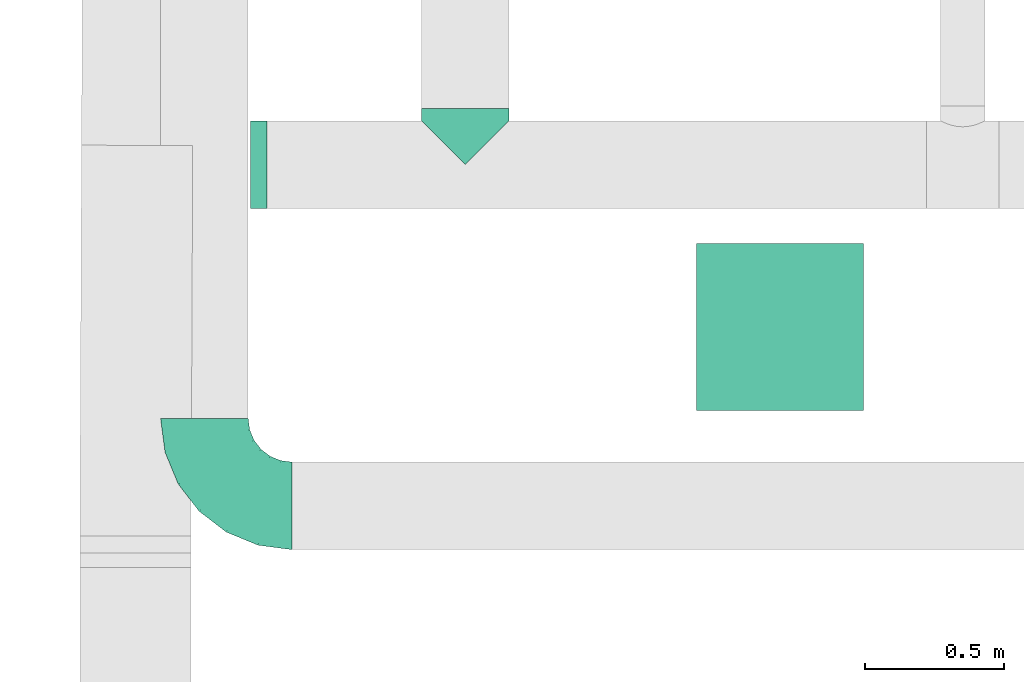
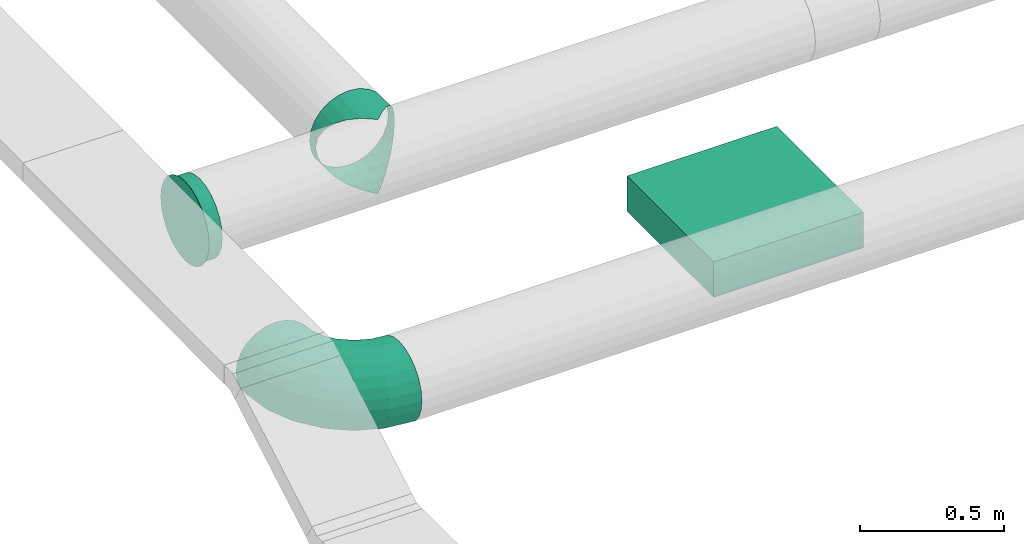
# One storey, part 16 of 119: 2 flow fittings, 1 distribution element, 1 flow segment.
"""IFC2X3 building model written with IfcOpenShell, lengths in metres."""

from ifc_helpers import new_model, si_unit, direction, frame, frame_2d, origin, place, context, subcontext, project, spatial, rectangle, extrude, open_shell, surface_model, source, transform, mapped, element, save


model = new_model("IFC2X3")

# Units and contexts
model_context = context("Model", 3, precision=1e-05, world=origin(), true_north=direction((-0.4480736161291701, 0.8939966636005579)))
body_context = subcontext(model_context, "Body", "Model", "MODEL_VIEW")
ifc_project = project(units=[si_unit("LENGTHUNIT", "METRE"), si_unit("AREAUNIT", "SQUARE_METRE"), si_unit("VOLUMEUNIT", "CUBIC_METRE"), si_unit("PLANEANGLEUNIT", "RADIAN"), si_unit("THERMODYNAMICTEMPERATUREUNIT", "KELVIN"), si_unit("MASSUNIT", "GRAM", prefix="KILO"), si_unit("TIMEUNIT", "SECOND")], contexts=[model_context])

# Site, building, storey
site_placement = place(None, origin())
site = spatial("IfcSite", under=ifc_project, at=site_placement, Name="Site 1", CompositionType="ELEMENT")
building_placement = place(site_placement, origin())
building = spatial("IfcBuilding", under=site, at=building_placement, Name="Undefined", CompositionType="ELEMENT")
storey_placement = place(building_placement, frame((0.0, 0.0, 5.4)))
storey = spatial("IfcBuildingStorey", under=building, at=storey_placement, Name="R+1", CompositionType="ELEMENT", Elevation=5.4)

# Flow fitting
shared_shape_1 = source(origin(), body_context, "Body", "SurfaceModel", [
    surface_model("IfcFaceBasedSurfaceModel", [(0.0, 0.04111575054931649, 0.0), (0.0, 0.0, 0.0), (0.05930000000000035, 0.0, 0.0), (0.05930000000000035, 0.04111575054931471, 0.0), (0.0, -0.03971476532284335, -0.010641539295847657), (0.05930000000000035, -0.039714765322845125, -0.010641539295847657), (0.0, -0.0753220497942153, -0.0311994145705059), (0.05930000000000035, -0.07532204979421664, -0.0311994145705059), (0.0, -0.10439527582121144, -0.060272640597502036), (0.05930000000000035, -0.10439527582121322, -0.06027264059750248), (0.0, -0.12495315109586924, -0.09587992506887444), (0.05930000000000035, -0.12495315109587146, -0.095879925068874), (0.0, -0.13559469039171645, -0.13559469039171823), (0.05930000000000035, -0.13559469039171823, -0.13559469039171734), (0.0, -0.135594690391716, -0.17671044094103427), (0.05930000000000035, -0.13559469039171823, -0.17671044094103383), (0.0, -0.1249531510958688, -0.21642520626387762), (0.05930000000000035, -0.12495315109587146, -0.21642520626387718), (0.0, -0.10439527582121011, -0.2520324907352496), (0.05930000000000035, -0.10439527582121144, -0.2520324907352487), (0.0, -0.07532204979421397, -0.2811057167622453), (0.05930000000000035, -0.07532204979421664, -0.2811057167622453), (0.0, -0.039714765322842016, -0.3016635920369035), (0.05930000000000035, -0.03971476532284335, -0.3016635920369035), (0.0, 1.776356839e-15, -0.3123051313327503), (0.05930000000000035, -1.776356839e-15, -0.3123051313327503), (0.0, 0.041115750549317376, -0.31230513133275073), (0.05930000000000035, 0.04111575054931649, -0.3123051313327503), (0.0, 0.08083051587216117, -0.30166359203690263), (0.05930000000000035, 0.08083051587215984, -0.3016635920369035), (0.0, 0.11643780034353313, -0.28110571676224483), (0.05930000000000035, 0.11643780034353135, -0.2811057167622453), (0.0, 0.14551102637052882, -0.25203249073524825), (0.05930000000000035, 0.14551102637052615, -0.2520324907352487), (0.0, 0.16606890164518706, -0.2164252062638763), (0.05930000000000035, 0.1660689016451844, -0.2164252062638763), (0.0, 0.17671044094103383, -0.1767104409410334), (0.05930000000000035, 0.17671044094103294, -0.17671044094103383), (0.0, 0.17671044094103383, -0.1355946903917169), (0.05930000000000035, 0.17671044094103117, -0.13559469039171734), (0.0, 0.16606890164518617, -0.09587992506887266), (0.05930000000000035, 0.1660689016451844, -0.095879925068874), (0.0, 0.14551102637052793, -0.06027264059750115), (0.05930000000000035, 0.14551102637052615, -0.06027264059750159), (0.0, 0.1164378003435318, -0.031199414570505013), (0.05930000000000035, 0.11643780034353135, -0.0311994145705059), (0.0, 0.08083051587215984, -0.010641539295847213), (0.05930000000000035, 0.08083051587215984, -0.010641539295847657), (0.05930000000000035, 0.04248627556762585, 0.010410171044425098), (0.05930000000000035, -0.0013705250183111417, 0.01041017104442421), (0.060000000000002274, -0.0013705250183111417, 0.01041017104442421), (0.060000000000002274, 0.04248627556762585, 0.010410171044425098), (0.05930000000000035, -0.0437329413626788, -0.0009408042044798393), (0.060000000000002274, -0.0437329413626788, -0.0009408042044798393), (0.05930000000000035, -0.08171404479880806, -0.022869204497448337), (0.060000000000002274, -0.08171404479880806, -0.022869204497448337), (0.05930000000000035, -0.1127254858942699, -0.05388064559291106), (0.060000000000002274, -0.1127254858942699, -0.05388064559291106), (0.05930000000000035, -0.13465388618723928, -0.0918617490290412), (0.060000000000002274, -0.13465388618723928, -0.0918617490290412), (0.05930000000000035, -0.14600486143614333, -0.1342241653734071), (0.060000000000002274, -0.14600486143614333, -0.1342241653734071), (0.05930000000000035, -0.14600486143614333, -0.17808096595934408), (0.060000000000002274, -0.14600486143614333, -0.17808096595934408), (0.05930000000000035, -0.1346538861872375, -0.22044338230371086), (0.060000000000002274, -0.1346538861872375, -0.22044338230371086), (0.05930000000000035, -0.1127254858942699, -0.258424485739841), (0.060000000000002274, -0.1127254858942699, -0.258424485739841), (0.05930000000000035, -0.08171404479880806, -0.2894359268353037), (0.060000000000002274, -0.08171404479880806, -0.2894359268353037), (0.05930000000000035, -0.043732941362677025, -0.31136432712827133), (0.060000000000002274, -0.043732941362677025, -0.31136432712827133), (0.05930000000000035, -0.0013705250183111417, -0.3227153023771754), (0.060000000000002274, -0.0013705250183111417, -0.3227153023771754), (0.05930000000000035, 0.04248627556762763, -0.3227153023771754), (0.060000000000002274, 0.04248627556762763, -0.3227153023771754), (0.05930000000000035, 0.08484869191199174, -0.31136432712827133), (0.060000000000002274, 0.08484869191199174, -0.31136432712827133), (0.05930000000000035, 0.12282979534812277, -0.28943592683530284), (0.060000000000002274, 0.12282979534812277, -0.28943592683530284), (0.05930000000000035, 0.1538412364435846, -0.2584244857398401), (0.060000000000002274, 0.1538412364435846, -0.2584244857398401), (0.05930000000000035, 0.175769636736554, -0.22044338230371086), (0.060000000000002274, 0.175769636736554, -0.22044338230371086), (0.05930000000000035, 0.18712061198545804, -0.17808096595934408), (0.060000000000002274, 0.18712061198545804, -0.17808096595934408), (0.05930000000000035, 0.18712061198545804, -0.1342241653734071), (0.060000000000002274, 0.18712061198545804, -0.1342241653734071), (0.05930000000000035, 0.17576963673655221, -0.09186174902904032), (0.060000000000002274, 0.17576963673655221, -0.09186174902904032), (0.05930000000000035, 0.1538412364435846, -0.05388064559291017), (0.060000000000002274, 0.1538412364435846, -0.05388064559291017), (0.05930000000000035, 0.122829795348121, -0.02286920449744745), (0.060000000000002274, 0.122829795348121, -0.02286920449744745), (0.05930000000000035, 0.08484869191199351, -0.0009408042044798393), (0.060000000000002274, 0.08484869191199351, -0.0009408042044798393), (0.05930000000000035, 0.020557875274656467, -0.1561525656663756), (0.060000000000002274, 0.020557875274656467, -0.1561525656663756)], [open_shell([[[0, 1, 2, 3]], [[1, 4, 5, 2]], [[4, 6, 7, 5]], [[6, 8, 9, 7]], [[8, 10, 11, 9]], [[10, 12, 13, 11]], [[12, 14, 15, 13]], [[14, 16, 17, 15]], [[16, 18, 19, 17]], [[18, 20, 21, 19]], [[20, 22, 23, 21]], [[22, 24, 25, 23]], [[24, 26, 27, 25]], [[26, 28, 29, 27]], [[28, 30, 31, 29]], [[30, 32, 33, 31]], [[32, 34, 35, 33]], [[34, 36, 37, 35]], [[36, 38, 39, 37]], [[38, 40, 41, 39]], [[40, 42, 43, 41]], [[42, 44, 45, 43]], [[44, 46, 47, 45]], [[46, 0, 3, 47]], [[48, 49, 50, 51]], [[49, 52, 53, 50]], [[52, 54, 55, 53]], [[54, 56, 57, 55]], [[56, 58, 59, 57]], [[58, 60, 61, 59]], [[60, 62, 63, 61]], [[62, 64, 65, 63]], [[64, 66, 67, 65]], [[66, 68, 69, 67]], [[68, 70, 71, 69]], [[70, 72, 73, 71]], [[72, 74, 75, 73]], [[74, 76, 77, 75]], [[76, 78, 79, 77]], [[78, 80, 81, 79]], [[80, 82, 83, 81]], [[82, 84, 85, 83]], [[84, 86, 87, 85]], [[86, 88, 89, 87]], [[88, 90, 91, 89]], [[90, 92, 93, 91]], [[92, 94, 95, 93]], [[94, 48, 51, 95]], [[96, 49, 48]], [[96, 52, 49]], [[96, 54, 52]], [[96, 56, 54]], [[96, 58, 56]], [[96, 60, 58]], [[96, 62, 60]], [[96, 64, 62]], [[96, 66, 64]], [[96, 68, 66]], [[96, 70, 68]], [[96, 72, 70]], [[96, 74, 72]], [[96, 76, 74]], [[96, 78, 76]], [[96, 80, 78]], [[96, 82, 80]], [[96, 84, 82]], [[96, 86, 84]], [[96, 88, 86]], [[96, 90, 88]], [[96, 92, 90]], [[96, 94, 92]], [[96, 48, 94]], [[97, 95, 51]], [[97, 93, 95]], [[97, 91, 93]], [[97, 89, 91]], [[97, 87, 89]], [[97, 85, 87]], [[97, 83, 85]], [[97, 81, 83]], [[97, 79, 81]], [[97, 77, 79]], [[97, 75, 77]], [[97, 73, 75]], [[97, 71, 73]], [[97, 69, 71]], [[97, 67, 69]], [[97, 65, 67]], [[97, 63, 65]], [[97, 61, 63]], [[97, 59, 61]], [[97, 57, 59]], [[97, 55, 57]], [[97, 53, 55]], [[97, 50, 53]], [[97, 51, 50]]])]),
])
flow_fitting_1_placement = place(storey_placement, origin())
element("IfcFlowFitting", 1, at=flow_fitting_1_placement, inside=storey, Name="Enddeckel", ObjectType="Enddeckel", context=body_context, shape_type="MappedRepresentation", body=[
    mapped(shared_shape_1, transform((27.79082580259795, 20.54514033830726, 2.902133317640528), x_axis=(-1.0, 0.0, 0.0), y_axis=(7.266545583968e-12, -0.9914448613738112, 0.13052619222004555), z_axis=(0.0, 0.13052619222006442, 0.9914448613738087))),
])

# Flow segment
shared_shape_2 = source(origin(), body_context, "Body", "SurfaceModel", [
    surface_model("IfcFaceBasedSurfaceModel", [(0.005366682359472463, 0.0411157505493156, -3.552713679e-15), (0.0, 0.0, 0.0), (0.05036668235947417, 0.0, 0.0), (0.05036668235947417, 0.0411157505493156, -3.552713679e-15), (-0.015734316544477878, -0.039714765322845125, -0.010641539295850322), (0.05036668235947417, -0.039714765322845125, -0.010641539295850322), (-0.04076399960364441, -0.07532204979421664, -0.03119941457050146), (0.05036668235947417, -0.07532204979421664, -0.03119941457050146), (-0.07338331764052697, -0.10439527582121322, -0.060272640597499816), (0.05036668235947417, -0.10439527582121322, -0.060272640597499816), (-0.11136931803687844, -0.12495315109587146, -0.09587992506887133), (0.05036668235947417, -0.12495315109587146, -0.09587992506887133), (-0.1521333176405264, -0.13559469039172, -0.13559469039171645), (0.05036668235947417, -0.13559469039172, -0.13559469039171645), (-0.11136931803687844, -0.1355946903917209, -0.1767104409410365), (0.05036668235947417, -0.1355946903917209, -0.1767104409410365), (-0.07338331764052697, -0.12495315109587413, -0.21642520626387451), (0.05036668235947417, -0.12495315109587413, -0.21642520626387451), (-0.04076399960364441, -0.10439527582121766, -0.2520324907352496), (0.05036668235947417, -0.10439527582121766, -0.2520324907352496), (-0.015734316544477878, -0.07532204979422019, -0.28110571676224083), (0.05036668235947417, -0.07532204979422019, -0.28110571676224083), (0.0, -0.039714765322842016, -0.3016635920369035), (0.05036668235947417, -0.03971476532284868, -0.30166359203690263), (0.005366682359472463, -6.217248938e-15, -0.31230513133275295), (0.05036668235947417, -6.217248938e-15, -0.31230513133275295), (0.0, 0.041115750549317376, -0.31230513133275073), (0.05036668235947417, 0.04111575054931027, -0.31230513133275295), (-0.015734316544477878, 0.08083051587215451, -0.30166359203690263), (0.05036668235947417, 0.08083051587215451, -0.30166359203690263), (-0.04076399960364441, 0.11643780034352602, -0.2811057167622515), (0.05036668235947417, 0.11643780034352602, -0.2811057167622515), (-0.07338331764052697, 0.1455110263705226, -0.25203249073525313), (0.05036668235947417, 0.1455110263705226, -0.25203249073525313), (-0.11136931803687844, 0.16606890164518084, -0.21642520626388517), (0.05036668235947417, 0.16606890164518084, -0.21642520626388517), (-0.1521333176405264, 0.1767104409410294, -0.17671044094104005), (0.05036668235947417, 0.1767104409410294, -0.17671044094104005), (-0.11136931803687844, 0.17671044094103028, -0.13559469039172), (0.05036668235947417, 0.17671044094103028, -0.13559469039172), (-0.07338331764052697, 0.1660689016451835, -0.09587992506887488), (0.05036668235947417, 0.1660689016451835, -0.09587992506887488), (-0.04076399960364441, 0.14551102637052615, -0.06027264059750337), (0.05036668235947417, 0.14551102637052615, -0.06027264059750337), (-0.015734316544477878, 0.11643780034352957, -0.03119941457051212), (0.05036668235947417, 0.11643780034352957, -0.03119941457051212), (0.0, 0.08083051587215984, -0.010641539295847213), (0.05036668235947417, 0.08083051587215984, -0.010641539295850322)], [open_shell([[[0, 1, 2, 3]], [[1, 4, 5, 2]], [[4, 6, 7, 5]], [[6, 8, 9, 7]], [[8, 10, 11, 9]], [[10, 12, 13, 11]], [[12, 14, 15, 13]], [[14, 16, 17, 15]], [[16, 18, 19, 17]], [[18, 20, 21, 19]], [[20, 22, 23, 21]], [[22, 24, 25, 23]], [[24, 26, 27, 25]], [[26, 28, 29, 27]], [[28, 30, 31, 29]], [[30, 32, 33, 31]], [[32, 34, 35, 33]], [[34, 36, 37, 35]], [[36, 38, 39, 37]], [[38, 40, 41, 39]], [[40, 42, 43, 41]], [[42, 44, 45, 43]], [[44, 46, 47, 45]], [[46, 0, 3, 47]]])]),
])
flow_segment_placement = place(storey_placement, origin())
element("IfcFlowSegment", 2, at=flow_segment_placement, inside=storey, Name="Piquage équerre circulaire", ObjectType="Piquage équerre circulaire", context=body_context, shape_type="MappedRepresentation", body=[
    mapped(shared_shape_2, transform((28.35170023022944, 20.656509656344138, 2.790763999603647), x_axis=(0.0, 1.0, 0.0), y_axis=(-0.13052619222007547, 0.0, -0.9914448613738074), z_axis=(-0.9914448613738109, 0.0, 0.1305261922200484))),
])

# Flow fitting
shared_shape_3 = source(origin(), body_context, "Body", "SurfaceModel", [
    surface_model("IfcFaceBasedSurfaceModel", [(0.12334725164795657, 0.0, -1.110223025e-15), (0.12264675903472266, 0.04110978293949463, -7.77156117e-16), (0.0007004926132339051, 0.041109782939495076, -7.77156117e-16), (0.0, 0.0, 0.0), (-0.1170905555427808, 0.04519480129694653, -0.031296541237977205), (-0.11914429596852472, 0.004131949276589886, -0.0316560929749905), (-0.22269912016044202, 0.05308645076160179, -0.0917568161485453), (-0.2259661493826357, 0.01211426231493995, -0.09281096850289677), (-0.3089281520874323, 0.06424692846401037, -0.1772605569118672), (-0.313185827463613, 0.023402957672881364, -0.17929702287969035), (-0.3699012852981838, 0.07791566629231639, -0.2819808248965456), (-0.3748594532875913, 0.03722872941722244, -0.285220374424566), (-0.4014633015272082, 0.09316116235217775, -0.39878110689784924), (-0.4067840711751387, 0.05264937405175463, -0.40336252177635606), (0.12059301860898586, 0.08079531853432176, -0.01055203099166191), (0.0027542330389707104, 0.08079531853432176, -0.01055203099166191), (-0.11106929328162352, 0.08474274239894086, -0.04079441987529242), (-0.21312067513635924, 0.09236857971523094, -0.09921822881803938), (-0.2964452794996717, 0.1031531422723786, -0.18184197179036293), (-0.3553646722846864, 0.11636147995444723, -0.2830349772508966), (-0.38586359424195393, 0.131093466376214, -0.39590110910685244), (0.11732598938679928, 0.11635210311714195, -0.03093698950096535), (0.006021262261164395, 0.1163521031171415, -0.030936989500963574), (-0.10149084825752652, 0.12008064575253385, -0.05950246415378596), (-0.19788356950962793, 0.12728363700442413, -0.11468672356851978), (-0.2765878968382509, 0.13747020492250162, -0.19272905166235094), (-0.3322402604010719, 0.14994615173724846, -0.28831099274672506), (-0.36104804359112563, 0.16386126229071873, -0.3949187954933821), (0.11306831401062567, 0.14535700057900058, -0.05976567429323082), (0.010278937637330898, 0.14535700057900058, -0.05976567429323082), (-0.08900797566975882, 0.14880029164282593, -0.08614575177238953), (-0.17802618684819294, 0.15545221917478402, -0.13710814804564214), (-0.25070925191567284, 0.16485946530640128, -0.2091798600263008), (-0.3021039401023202, 0.1763809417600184, -0.29744931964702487), (-0.32870778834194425, 0.189231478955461, -0.395901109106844), (0.10811014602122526, 0.16583337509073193, -0.09507345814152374), (0.015237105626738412, 0.16583337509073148, -0.09507345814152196), (-0.07447136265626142, 0.16894448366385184, -0.1189085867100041), (-0.15490177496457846, 0.17495468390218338, -0.16495451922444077), (-0.22057293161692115, 0.1834543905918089, -0.230073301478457), (-0.26700945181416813, 0.1938643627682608, -0.3098271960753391), (-0.2910467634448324, 0.20547517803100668, -0.3987811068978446), (0.10278937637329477, 0.17638579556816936, -0.13445417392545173), (0.020557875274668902, 0.17638579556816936, -0.1344541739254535), (-0.05887165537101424, 0.17914042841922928, -0.15555823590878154), (-0.13008622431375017, 0.18446197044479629, -0.1963281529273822), (-0.18823267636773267, 0.19198776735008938, -0.2539855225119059), (-0.22934842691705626, 0.20120494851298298, -0.324601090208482), (-0.2506315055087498, 0.21148537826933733, -0.40336252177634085), (0.09746860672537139, 0.17629513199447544, -0.17522409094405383), (0.025878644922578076, 0.17629513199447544, -0.17522409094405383), (-0.043271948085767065, 0.17869328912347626, -0.19359708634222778), (-0.10527067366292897, 0.18332617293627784, -0.22909098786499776), (-0.1558924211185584, 0.1898780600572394, -0.2792869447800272), (-0.1916874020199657, 0.19790245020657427, -0.3407641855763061), (-0.21021624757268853, 0.20685249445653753, -0.40933313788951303), (0.09251043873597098, 0.1655675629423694, -0.2146048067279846), (0.030836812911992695, 0.1655675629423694, -0.21460480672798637), (-0.028735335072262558, 0.1676335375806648, -0.2304328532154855), (-0.0821462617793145, 0.17162469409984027, -0.261010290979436), (-0.1257561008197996, 0.1772690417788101, -0.3042533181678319), (-0.1565929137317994, 0.18418192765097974, -0.35721499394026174), (-0.17255522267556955, 0.1918922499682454, -0.4162860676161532), (0.08825276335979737, 0.14493415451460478, -0.24991259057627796), (0.0350944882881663, 0.14493415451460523, -0.2499125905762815), (-0.01625246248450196, 0.1467148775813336, -0.2635552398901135), (-0.06228887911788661, 0.15015497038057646, -0.28991081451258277), (-0.09987745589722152, 0.15501999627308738, -0.32718322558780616), (-0.1264565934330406, 0.16097841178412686, -0.3728324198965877), (-0.14021496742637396, 0.16762416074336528, -0.4237474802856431), (0.08498573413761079, 0.11580103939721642, -0.27874127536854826), (0.03836151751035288, 0.11580103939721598, -0.2787412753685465), (-0.0066740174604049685, 0.11736288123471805, -0.2907070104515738), (-0.0470517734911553, 0.12038012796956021, -0.3138230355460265), (-0.08002007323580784, 0.12464715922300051, -0.34651403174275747), (-0.10333218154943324, 0.1298731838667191, -0.3865521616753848), (-0.11539941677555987, 0.13570205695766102, -0.43120889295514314), (0.08293199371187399, 0.08015359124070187, -0.2991262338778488), (0.04041525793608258, 0.08015359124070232, -0.2991262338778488), (-0.0006527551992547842, 0.08157783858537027, -0.31003781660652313), (-0.037473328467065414, 0.08432927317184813, -0.3311173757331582), (-0.06753720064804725, 0.08822038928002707, -0.36092837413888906), (-0.08879556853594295, 0.09298601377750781, -0.3974392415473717), (-0.0997997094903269, 0.09830137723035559, -0.438161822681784), (0.08223150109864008, 0.040421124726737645, -0.30967826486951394), (0.0411157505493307, 0.040421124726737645, -0.30967826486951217), (0.001400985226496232, 0.04179844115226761, -0.32023029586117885), (-0.03420629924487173, 0.044459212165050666, -0.34061525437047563), (-0.06327952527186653, 0.04822211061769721, -0.3694439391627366), (-0.08383740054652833, 0.052830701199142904, -0.4047517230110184), (-0.0944789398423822, 0.057970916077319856, -0.44413243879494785), (0.08293199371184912, -0.0006886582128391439, -0.3096782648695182), (0.040415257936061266, -0.0006886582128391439, -0.3096782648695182), (-0.0006527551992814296, 0.0007355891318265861, -0.32058984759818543), (-0.037473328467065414, 0.0034870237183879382, -0.34166940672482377), (-0.06753720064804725, 0.00737813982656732, -0.37148040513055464), (-0.08879556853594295, 0.012143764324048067, -0.4079912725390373), (-0.0997997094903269, 0.017459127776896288, -0.44871385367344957), (0.08498573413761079, -0.040374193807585, -0.29912623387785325), (0.03836151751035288, -0.040374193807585, -0.2991262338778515), (-0.0066740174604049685, -0.03881235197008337, -0.3110919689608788), (-0.0470517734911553, -0.03579510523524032, -0.33420799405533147), (-0.08002007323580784, -0.031528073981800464, -0.36689899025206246), (-0.10333218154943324, -0.02630204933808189, -0.4069371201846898), (-0.11539941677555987, -0.020473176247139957, -0.45159385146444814), (0.08825276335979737, -0.07593097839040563, -0.2787412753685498), (0.0350944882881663, -0.07593097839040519, -0.27874127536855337), (-0.01625246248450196, -0.0741502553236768, -0.29238392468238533), (-0.06228887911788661, -0.07071016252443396, -0.3187394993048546), (-0.09987745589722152, -0.06584513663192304, -0.356011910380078), (-0.1264565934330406, -0.05988672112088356, -0.40166110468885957), (-0.14021496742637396, -0.05324097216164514, -0.4525761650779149), (0.09251043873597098, -0.10493587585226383, -0.2499125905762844), (0.030836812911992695, -0.10493587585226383, -0.24991259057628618), (-0.028735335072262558, -0.10286990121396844, -0.2657406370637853), (-0.0821462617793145, -0.09887874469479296, -0.2963180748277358), (-0.1257561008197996, -0.09323439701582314, -0.3395611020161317), (-0.1565929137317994, -0.0863215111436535, -0.39252277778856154), (-0.17255522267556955, -0.07861118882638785, -0.451593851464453), (0.09746860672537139, -0.12541225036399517, -0.21460480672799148), (0.025878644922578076, -0.12541225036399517, -0.21460480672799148), (-0.043271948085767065, -0.12301409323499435, -0.23297780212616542), (-0.10527067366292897, -0.11838120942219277, -0.2684717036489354), (-0.1558924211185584, -0.11182932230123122, -0.31866766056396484), (-0.1916874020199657, -0.10380493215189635, -0.38014490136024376), (-0.21021624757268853, -0.09485488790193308, -0.4487138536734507), (0.10278937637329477, -0.13596467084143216, -0.1752240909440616), (0.020557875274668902, -0.13596467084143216, -0.17522409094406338), (-0.05887165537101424, -0.1332100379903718, -0.19632815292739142), (-0.13008622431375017, -0.12788849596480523, -0.23709806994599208), (-0.18823267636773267, -0.12036269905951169, -0.2947554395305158), (-0.22934842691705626, -0.11114551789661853, -0.36537100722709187), (-0.2506315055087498, -0.10086508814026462, -0.44413243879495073), (0.10811014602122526, -0.13587400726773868, -0.13445417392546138), (0.015237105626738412, -0.13587400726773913, -0.1344541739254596), (-0.07447136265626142, -0.13276289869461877, -0.15828930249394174), (-0.15490177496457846, -0.12675269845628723, -0.2043352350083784), (-0.22057293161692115, -0.11825299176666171, -0.26945401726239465), (-0.26700945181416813, -0.10784301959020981, -0.34920791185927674), (-0.2910467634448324, -0.09623220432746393, -0.4381618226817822), (0.11306831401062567, -0.12514643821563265, -0.09507345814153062), (0.010278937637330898, -0.12514643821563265, -0.09507345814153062), (-0.08900797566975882, -0.1217031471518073, -0.12145353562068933), (-0.17802618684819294, -0.11505121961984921, -0.17241593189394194), (-0.25070925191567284, -0.10564397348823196, -0.2444876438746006), (-0.3021039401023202, -0.09412249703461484, -0.33275710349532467), (-0.32870778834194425, -0.08127195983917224, -0.4312088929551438), (0.11732598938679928, -0.10451302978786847, -0.05976567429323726), (0.006021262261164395, -0.10451302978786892, -0.05976567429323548), (-0.10149084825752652, -0.10078448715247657, -0.08833114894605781), (-0.19788356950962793, -0.09358149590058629, -0.14351540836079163), (-0.2765878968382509, -0.0833949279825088, -0.2215577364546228), (-0.3322402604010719, -0.07091898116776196, -0.3171396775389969), (-0.36104804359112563, -0.057003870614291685, -0.42374748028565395), (0.12059301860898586, -0.07537991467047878, -0.030936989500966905), (0.0027542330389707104, -0.07537991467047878, -0.030936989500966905), (-0.11106929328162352, -0.07143249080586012, -0.06117937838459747), (-0.21312067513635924, -0.06380665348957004, -0.11960318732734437), (-0.2964452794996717, -0.05302209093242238, -0.20222693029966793), (-0.3553646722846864, -0.039813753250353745, -0.3034199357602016), (-0.38586359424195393, -0.025081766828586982, -0.41628606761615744), (0.12264675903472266, -0.039732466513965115, -0.010552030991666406), (0.0007004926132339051, -0.039732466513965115, -0.010552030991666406), (-0.1170905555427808, -0.03564744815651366, -0.04184857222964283), (-0.22269912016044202, -0.027755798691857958, -0.10230884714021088), (-0.3089281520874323, -0.016595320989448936, -0.18781258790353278), (-0.3699012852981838, -0.002926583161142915, -0.29253285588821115), (-0.4014633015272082, 0.012318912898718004, -0.4093331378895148)], [open_shell([[[0, 1, 2, 3]], [[3, 2, 4, 5]], [[5, 4, 6, 7]], [[7, 6, 8, 9]], [[9, 8, 10, 11]], [[11, 10, 12, 13]], [[1, 14, 15, 2]], [[2, 15, 16, 4]], [[4, 16, 17, 6]], [[6, 17, 18, 8]], [[8, 18, 19, 10]], [[10, 19, 20, 12]], [[14, 21, 22, 15]], [[15, 22, 23, 16]], [[16, 23, 24, 17]], [[17, 24, 25, 18]], [[18, 25, 26, 19]], [[19, 26, 27, 20]], [[21, 28, 29, 22]], [[22, 29, 30, 23]], [[23, 30, 31, 24]], [[24, 31, 32, 25]], [[25, 32, 33, 26]], [[26, 33, 34, 27]], [[28, 35, 36, 29]], [[29, 36, 37, 30]], [[30, 37, 38, 31]], [[31, 38, 39, 32]], [[32, 39, 40, 33]], [[33, 40, 41, 34]], [[35, 42, 43, 36]], [[36, 43, 44, 37]], [[37, 44, 45, 38]], [[38, 45, 46, 39]], [[39, 46, 47, 40]], [[40, 47, 48, 41]], [[42, 49, 50, 43]], [[43, 50, 51, 44]], [[44, 51, 52, 45]], [[45, 52, 53, 46]], [[46, 53, 54, 47]], [[47, 54, 55, 48]], [[49, 56, 57, 50]], [[50, 57, 58, 51]], [[51, 58, 59, 52]], [[52, 59, 60, 53]], [[53, 60, 61, 54]], [[54, 61, 62, 55]], [[56, 63, 64, 57]], [[57, 64, 65, 58]], [[58, 65, 66, 59]], [[59, 66, 67, 60]], [[60, 67, 68, 61]], [[61, 68, 69, 62]], [[63, 70, 71, 64]], [[64, 71, 72, 65]], [[65, 72, 73, 66]], [[66, 73, 74, 67]], [[67, 74, 75, 68]], [[68, 75, 76, 69]], [[70, 77, 78, 71]], [[71, 78, 79, 72]], [[72, 79, 80, 73]], [[73, 80, 81, 74]], [[74, 81, 82, 75]], [[75, 82, 83, 76]], [[77, 84, 85, 78]], [[78, 85, 86, 79]], [[79, 86, 87, 80]], [[80, 87, 88, 81]], [[81, 88, 89, 82]], [[82, 89, 90, 83]], [[84, 91, 92, 85]], [[85, 92, 93, 86]], [[86, 93, 94, 87]], [[87, 94, 95, 88]], [[88, 95, 96, 89]], [[89, 96, 97, 90]], [[91, 98, 99, 92]], [[92, 99, 100, 93]], [[93, 100, 101, 94]], [[94, 101, 102, 95]], [[95, 102, 103, 96]], [[96, 103, 104, 97]], [[98, 105, 106, 99]], [[99, 106, 107, 100]], [[100, 107, 108, 101]], [[101, 108, 109, 102]], [[102, 109, 110, 103]], [[103, 110, 111, 104]], [[105, 112, 113, 106]], [[106, 113, 114, 107]], [[107, 114, 115, 108]], [[108, 115, 116, 109]], [[109, 116, 117, 110]], [[110, 117, 118, 111]], [[112, 119, 120, 113]], [[113, 120, 121, 114]], [[114, 121, 122, 115]], [[115, 122, 123, 116]], [[116, 123, 124, 117]], [[117, 124, 125, 118]], [[119, 126, 127, 120]], [[120, 127, 128, 121]], [[121, 128, 129, 122]], [[122, 129, 130, 123]], [[123, 130, 131, 124]], [[124, 131, 132, 125]], [[126, 133, 134, 127]], [[127, 134, 135, 128]], [[128, 135, 136, 129]], [[129, 136, 137, 130]], [[130, 137, 138, 131]], [[131, 138, 139, 132]], [[133, 140, 141, 134]], [[134, 141, 142, 135]], [[135, 142, 143, 136]], [[136, 143, 144, 137]], [[137, 144, 145, 138]], [[138, 145, 146, 139]], [[140, 147, 148, 141]], [[141, 148, 149, 142]], [[142, 149, 150, 143]], [[143, 150, 151, 144]], [[144, 151, 152, 145]], [[145, 152, 153, 146]], [[147, 154, 155, 148]], [[148, 155, 156, 149]], [[149, 156, 157, 150]], [[150, 157, 158, 151]], [[151, 158, 159, 152]], [[152, 159, 160, 153]], [[154, 161, 162, 155]], [[155, 162, 163, 156]], [[156, 163, 164, 157]], [[157, 164, 165, 158]], [[158, 165, 166, 159]], [[159, 166, 167, 160]], [[161, 0, 3, 162]], [[162, 3, 5, 163]], [[163, 5, 7, 164]], [[164, 7, 9, 165]], [[165, 9, 11, 166]], [[166, 11, 13, 167]]])]),
])
flow_fitting_2_placement = place(storey_placement, origin())
element("IfcFlowFitting", 3, at=flow_fitting_2_placement, inside=storey, Name="Coude", ObjectType="Coude", context=body_context, shape_type="MappedRepresentation", body=[
    mapped(shared_shape_3, transform((27.757996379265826, 19.135230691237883, 2.775), x_axis=(0.9914448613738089, -0.13052619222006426, 0.0), y_axis=(0.016893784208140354, 0.12832103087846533, 0.9915887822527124), z_axis=(-0.1294283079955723, -0.9831056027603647, 0.12942830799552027))),
])

# Distribution element
distribution_element_placement = place(storey_placement, origin())
element("IfcDistributionElement", 4, at=distribution_element_placement, inside=storey, Name="Decken-Rechteckleuchte mit Rahmen AP", ObjectType="Decken-Rechteckleuchte mit Rahmen AP", context=body_context, shape_type="SweptSolid", body=[
    extrude(rectangle(XDim=0.6000000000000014, YDim=0.6000000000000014, at=frame_2d((3.552713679e-15, 0.0), x_axis=(0.0, 1.0))), frame((29.636126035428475, 19.920550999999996, 2.5500000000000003), z_axis=(0.0, 0.0, -1.0), x_axis=(1.0, 0.0, 0.0)), (0.0, 0.0, 1.0), 0.15),
])

save(model, "model.ifc")
